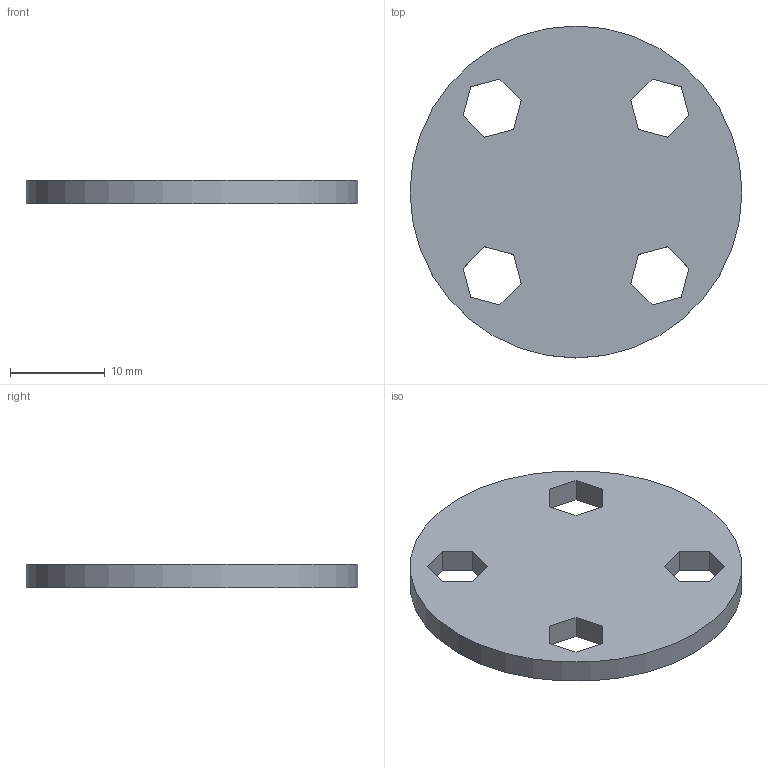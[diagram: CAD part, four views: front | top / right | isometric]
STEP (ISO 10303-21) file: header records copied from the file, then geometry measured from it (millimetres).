
FILE_DESCRIPTION(/* description */ (''),/* implementation_level */ '2;1');
FILE_NAME(/* name */ 'G:\Unidades compartidas\PROYECTO PANAMA\Archivos para pagina web\Cansat_Estandar\STEP\Soporte tuercas.stp',/* time_stamp */ '2022-06-07T17:45:19-05:00',/* author */ ('pined'),/* organization */ (''),/* preprocessor_version */ 'ST-DEVELOPER v18.1',/* originating_system */ 'Autodesk Inventor 2022',/* authorisation */ '');
FILE_SCHEMA (('AUTOMOTIVE_DESIGN { 1 0 10303 214 3 1 1 }'));
Length unit declared in the file: millimetre
Products named in the file (1): 8. Soporte tuercas
Bounding box: 35 x 35 x 2.46 mm (x, y, z)
Volume: 2109 mm3; surface area: 2172.6 mm2
Topology: 1 solids, 1 shells, 27 faces, 75 edges, 50 vertices
Faces by surface type: plane 26, cylinder 1
Full cylindrical faces by diameter (mm): 35 x1
Entity records: 908 total; most frequent: CARTESIAN_POINT 153, ORIENTED_EDGE 150, DIRECTION 133, EDGE_CURVE 75, LINE 73, VECTOR 73, VERTEX_POINT 50, EDGE_LOOP 35
